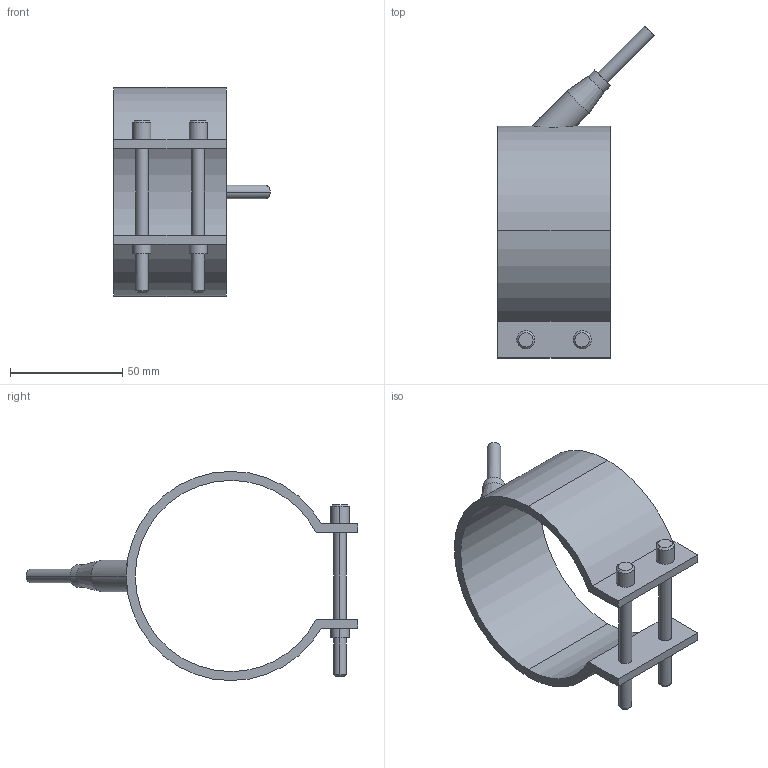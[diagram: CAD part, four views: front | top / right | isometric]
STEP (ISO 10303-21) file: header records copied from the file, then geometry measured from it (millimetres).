
FILE_DESCRIPTION(('CATIA V5 STEP Exchange'),'2;1');
FILE_NAME('C:\Users\Utente\Desktop\IO LAVORO\3D X SITO CF\X SITO\PLASTICA\RF1\29085050.stp','2021-03-29T18:03:16+00:00',('none'),('none'),'CATIA Version 5 Release 20 GA (IN-10)','CATIA V5 STEP AP203','none');
FILE_SCHEMA(('CONFIG_CONTROL_DESIGN'));
Length unit declared in the file: millimetre
Products named in the file (1): 29085050
Bounding box: 69.55 x 147.55 x 93 mm (x, y, z)
Volume: 62902.4 mm3; surface area: 33713.7 mm2
Topology: 1 solids, 1 shells, 54 faces, 123 edges, 79 vertices
Faces by surface type: cylinder 28, plane 16, cone 10
Entity records: 1746 total; most frequent: CARTESIAN_POINT 518, ORIENTED_EDGE 246, DIRECTION 211, EDGE_CURVE 123, AXIS2_PLACEMENT_3D 104, VERTEX_POINT 79, EDGE_LOOP 66, VECTOR 56
